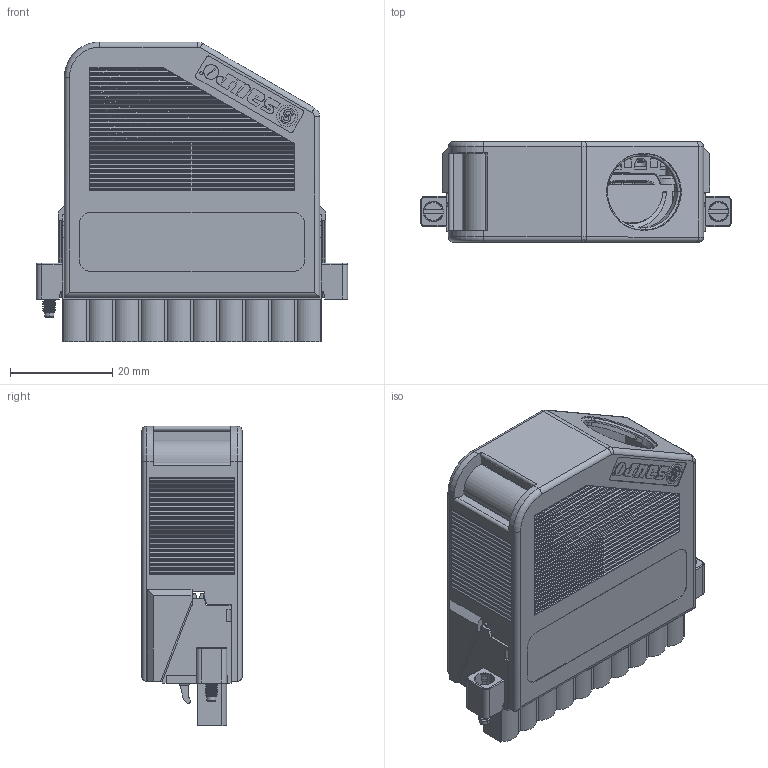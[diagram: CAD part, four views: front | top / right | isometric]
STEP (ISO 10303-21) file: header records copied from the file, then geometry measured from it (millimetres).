
FILE_DESCRIPTION((''),'2;1');
FILE_NAME('CU_NI-9981','2016-01-26T',('dkendric'),(''),'PRO/ENGINEER BY PARAMETRIC TECHNOLOGY CORPORATION, 2015280','PRO/ENGINEER BY PARAMETRIC TECHNOLOGY CORPORATION, 2015280','');
FILE_SCHEMA(('CONFIG_CONTROL_DESIGN'));
Products named in the file (1): CU_NI-9981
Bounding box: 60.96 x 19.7 x 58.75 mm (x, y, z)
Volume: 24877 mm3; surface area: 23508.6 mm2
Topology: 1 solids, 1 shells, 2867 faces, 8146 edges, 5387 vertices
Faces by surface type: plane 1610, cylinder 854, extrusion 221, cone 86, torus 54, bspline 34, sphere 8
Entity records: 105107 total; most frequent: CARTESIAN_POINT 31232, ORIENTED_EDGE 16268, DIRECTION 14275, EDGE_CURVE 8134, VERTEX_POINT 5387, VECTOR 4957, LINE 4736, AXIS2_PLACEMENT_3D 4659
